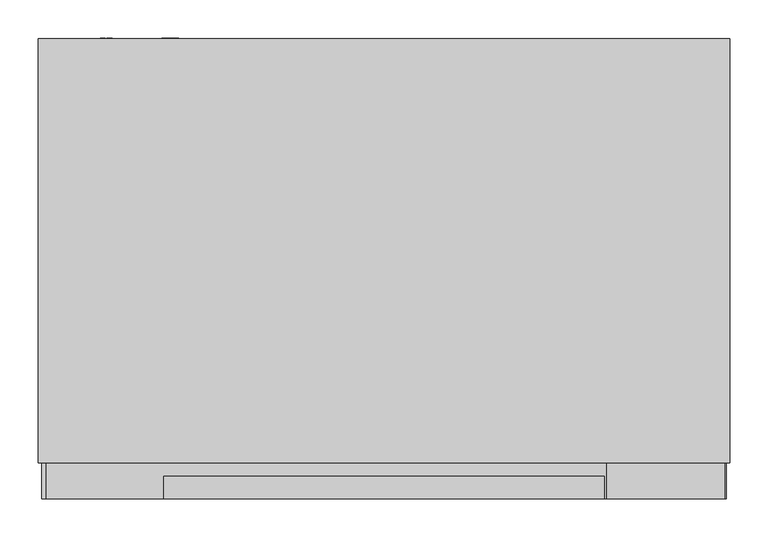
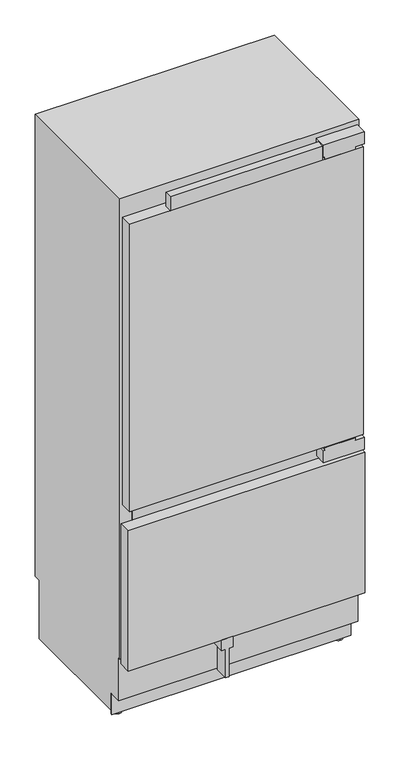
"""IFC4 building model written with IfcOpenShell, lengths in millimetres: proxy geometry, 11502930_USA_KF2902Vi : 38290201_USA_11502930_KF2902Vi."""

from ifc_helpers import new_model, si_unit, point, frame, frame_2d, origin, place, context, project, spatial, polyline, circle_curve, trimmed, segment, composite_curve, outline, extrude, source, transform, mapped, element, save
from ifc_brep_helpers import plane_surface, cylinder_surface, advanced_brep


def specialty_equipment_3cc039fb(model_context):
    return source(origin(), model_context, "Body", "SolidModel", [
        extrude(outline(polyline([(247.0, -94.0), (205.0, -94.0), (205.0, -79.5), (90.0, -79.5), (90.0, -66.5), (205.0, -66.5), (205.0, -52.0), (247.0, -52.0), (247.0, -94.0)])), frame((0.0, 0.0, 0.0), z_axis=(0.0, 1.0, 0.0), x_axis=(0.0, 0.0, 1.0)), (0.0, 0.0, 1.0), 54.0),
        extrude(outline(polyline([(-443.0, 47.0), (443.0, 47.0), (443.0, 0.0), (-443.0, 0.0), (-443.0, 47.0)])), frame((0.0, 0.0, 883.0), z_axis=(0.0, 0.0, 1.0), x_axis=(1.0, 0.0, 0.0)), (0.0, 0.0, 1.0), 1153.0),
        extrude(outline(polyline([(-449.5, 47.0), (449.5, 47.0), (449.5, 0.0), (-449.5, 0.0), (-449.5, 47.0)])), frame((0.0, 0.0, 247.0), z_axis=(0.0, 0.0, 1.0), x_axis=(1.0, 0.0, 0.0)), (0.0, 0.0, 1.0), 562.0),
        extrude(outline(polyline([(-289.0, 29.0), (289.0, 29.0), (289.0, 0.0), (-289.0, 0.0), (-289.0, 29.0)])), frame((0.0, 0.0, 2036.0), z_axis=(0.0, 0.0, 1.0), x_axis=(1.0, 0.0, 0.0)), (0.0, 0.0, 1.0), 56.0),
        extrude(outline(polyline([(180.5, 1973.4), (217.625, 1914.0), (216.4457524, 1914.0), (179.3207524, 1973.4), (180.5, 1973.4)])), frame((-69.0, 0.0, 0.0), z_axis=(1.0, 0.0, 0.0), x_axis=(0.0, 1.0, 0.0)), (0.0, 0.0, 1.0), 138.0),
        extrude(outline(polyline([(544.0, 1998.0), (544.0, 1796.0), (474.0, 1796.0), (433.0, 1907.0), (222.0, 1907.0), (177.0, 1979.0), (129.0, 1998.0), (544.0, 1998.0)])), frame((-408.0, 0.0, 0.0), z_axis=(1.0, 0.0, 0.0), x_axis=(0.0, 1.0, 0.0)), (0.0, 0.0, 1.0), 816.0),
        extrude(outline(polyline([(-408.0, 544.0), (408.0, 544.0), (408.0, 519.0), (-408.0, 519.0), (-408.0, 544.0)])), frame((0.0, 0.0, 303.0), z_axis=(0.0, 0.0, 1.0), x_axis=(1.0, 0.0, 0.0)), (0.0, 0.0, 1.0), 467.0),
        extrude(outline(polyline([(-408.0, 544.0), (408.0, 544.0), (408.0, 47.0), (-408.0, 47.0), (-408.0, 544.0)])), frame((0.0, 0.0, 770.0), z_axis=(0.0, 0.0, 1.0), x_axis=(1.0, 0.0, 0.0)), (0.0, 0.0, 1.0), 144.0),
        extrude(outline(polyline([(46.0510837, -279.101717), (37.4134902, -281.1745179), (46.0453554, -283.6868463), (46.0453554, -285.5601414), (37.4089549, -288.0799633), (46.0493903, -290.1581876), (46.0493903, -291.4649805), (36.0005458, -288.7156324), (36.0005458, -287.372208), (44.8261022, -284.6342221), (35.9987467, -282.0620509), (35.9987287, -280.5451466), (46.0510837, -277.800191), (46.0510837, -279.101717)])), frame((0.0, 604.0, 0.0), z_axis=(0.0, 1.0, 0.0), x_axis=(0.0, 0.0, 1.0)), (0.0, 0.0, 1.0), 1.0),
        extrude(outline(polyline([(46.0485238, -270.7401503), (41.1363122, -270.7401503), (46.0468162, -275.884602), (46.0468162, -277.6328316), (41.9156889, -273.3260313), (36.000035, -277.8032231), (36.000035, -276.2795519), (41.0742849, -272.4391666), (39.4525334, -270.7395503), (35.9999292, -270.7395503), (35.9999292, -269.4795491), (46.0485238, -269.4795491), (46.0485238, -270.7401503)])), frame((0.0, 604.0, 0.0), z_axis=(0.0, 1.0, 0.0), x_axis=(0.0, 0.0, 1.0)), (0.0, 0.0, 1.0), 1.0),
        extrude(outline(composite_curve([segment(trimmed(circle_curve(frame_2d((41.0, -280.0)), 7.5), [point((33.5, -280.0))], [point((48.5, -280.0))], False, "CARTESIAN"), True, "CONTINUOUS"), segment(trimmed(circle_curve(frame_2d((41.0, -280.0)), 7.5), [point((48.5, -280.0))], [point((33.5, -280.0))], False, "CARTESIAN"), True, "CONTINUOUS")], self_intersect=False)), frame((0.0, 577.0, 0.0), z_axis=(0.0, 1.0, 0.0), x_axis=(0.0, 0.0, 1.0)), (0.0, 0.0, 1.0), 27.0),
        extrude(outline(polyline([(2095.0, 447.5), (2095.0, 292.5), (2047.0, 292.5), (2047.0, 298.5), (2036.5, 298.5), (2036.5, 413.5), (2047.0, 413.5), (2047.0, 447.5), (2095.0, 447.5)])), frame((0.0, 0.0, 0.0), z_axis=(0.0, 1.0, 0.0), x_axis=(0.0, 0.0, 1.0)), (0.0, 0.0, 1.0), 47.0),
        extrude(outline(polyline([(871.0, 292.5), (823.0, 292.5), (823.0, 447.5), (871.0, 447.5), (871.0, 413.5), (881.0, 413.5), (881.0, 298.5), (871.0, 298.5), (871.0, 292.5)])), frame((0.0, 0.0, 0.0), z_axis=(0.0, 1.0, 0.0), x_axis=(0.0, 0.0, 1.0)), (0.0, 0.0, 1.0), 47.0),
        extrude(outline(polyline([(99.0373308, -363.7645771), (97.7615342, -363.7645771), (97.7615342, -357.8195541), (94.7968516, -357.8195541), (94.7968516, -363.469579), (93.5246295, -363.469579), (93.5246295, -357.8415693), (90.2570046, -357.8415693), (90.2570046, -363.9619689), (88.9546219, -363.9619689), (88.9546219, -356.5443524), (99.0373308, -356.5443524), (99.0373308, -363.7645771)])), frame((0.0, 604.0, 0.0), z_axis=(0.0, 1.0, 0.0), x_axis=(0.0, 0.0, 1.0)), (0.0, 0.0, 1.0), 1.0),
        extrude(outline(polyline([(99.0458, -367.0619704), (90.2663944, -367.0619704), (90.2663944, -372.1145879), (89.0134802, -372.1145879), (89.0134802, -365.8423809), (99.0458, -365.8423809), (99.0458, -367.0619704)])), frame((0.0, 604.0, 0.0), z_axis=(0.0, 1.0, 0.0), x_axis=(0.0, 0.0, 1.0)), (0.0, 0.0, 1.0), 1.0),
        extrude(outline(composite_curve([segment(trimmed(circle_curve(frame_2d((94.0, -364.0)), 7.5), [point((86.5, -364.0))], [point((101.5, -364.0))], False, "CARTESIAN"), True, "CONTINUOUS"), segment(trimmed(circle_curve(frame_2d((94.0, -364.0)), 7.5), [point((101.5, -364.0))], [point((86.5, -364.0))], False, "CARTESIAN"), True, "CONTINUOUS")], self_intersect=False)), frame((0.0, 577.0, 0.0), z_axis=(0.0, 1.0, 0.0), x_axis=(0.0, 0.0, 1.0)), (0.0, 0.0, 1.0), 27.0),
        extrude(outline(polyline([(-454.0, 104.0), (454.0, 104.0), (454.0, 99.0), (-454.0, 99.0), (-454.0, 104.0)])), frame((0.0, 0.0, 14.0), z_axis=(0.0, 0.0, 1.0), x_axis=(1.0, 0.0, 0.0)), (0.0, 0.0, 1.0), 83.0),
        advanced_brep(
        [(-420.0, 139.0, 0.0), (-420.0, 109.0, 0.0), (-420.0, 139.0, 7.0), (-420.0, 109.0, 7.0), (-420.0, 128.7, 7.0), (-420.0, 119.3, 7.0), (-420.0, 128.7, 28.0), (-420.0, 119.3, 28.0)],
        [
            (0, 1, circle_curve(frame((-420.0, 124.0, 0.0), z_axis=(0.0, 0.0, -1.0), x_axis=(1.0, 0.0, 0.0)), 15.0)),
            (1, 0, circle_curve(frame((-420.0, 124.0, 0.0), z_axis=(0.0, 0.0, -1.0), x_axis=(1.0, 0.0, 0.0)), 15.0)),
            (2, 3, circle_curve(frame((-420.0, 124.0, 7.0), z_axis=(0.0, 0.0, 1.0), x_axis=(1.0, 0.0, 0.0)), 15.0)),
            (3, 2, circle_curve(frame((-420.0, 124.0, 7.0), z_axis=(0.0, 0.0, 1.0), x_axis=(1.0, 0.0, 0.0)), 15.0)),
            (4, 5, circle_curve(frame((-420.0, 124.0, 7.0), z_axis=(0.0, 0.0, -1.0), x_axis=(0.0, -1.0, 0.0)), 4.7)),
            (5, 4, circle_curve(frame((-420.0, 124.0, 7.0), z_axis=(0.0, 0.0, -1.0), x_axis=(0.0, -1.0, 0.0)), 4.7)),
            (0, 2),
            (3, 1),
            (6, 7, circle_curve(frame((-420.0, 124.0, 28.0), z_axis=(0.0, 0.0, 1.0), x_axis=(0.0, -1.0, 0.0)), 4.7)),
            (7, 6, circle_curve(frame((-420.0, 124.0, 28.0), z_axis=(0.0, 0.0, 1.0), x_axis=(0.0, -1.0, 0.0)), 4.7)),
            (7, 5),
            (4, 6),
        ],
        [
            plane_surface(frame((-405.0, 124.0, 0.0), z_axis=(0.0, 0.0, -1.0), x_axis=(0.0, -1.0, 0.0))),
            plane_surface(frame((-405.0, 124.0, 7.0), z_axis=(0.0, 0.0, 1.0), x_axis=(0.0, 1.0, 0.0))),
            cylinder_surface(frame((-420.0, 124.0, 7.0), z_axis=(0.0, 0.0, -1.0), x_axis=(1.0, 0.0, 0.0)), 15.0),
            plane_surface(frame((-420.0, 119.3, 28.0), z_axis=(0.0, 0.0, 1.0), x_axis=(1.0, 0.0, 0.0))),
            cylinder_surface(frame((-420.0, 124.0, 28.0), z_axis=(0.0, 0.0, -1.0), x_axis=(0.0, -1.0, 0.0)), 4.7),
        ],
        [
            (0, [[1, 2]]),
            (1, [[3, 4], [5, 6]]),
            (2, [[-1, 7, -4, 8]]),
            (2, [[-2, -8, -3, -7]]),
            (3, [[9, 10]]),
            (4, [[-10, 11, -5, 12]]),
            (4, [[-9, -12, -6, -11]]),
        ],
    ),
        advanced_brep(
        [(420.0, 139.0, 0.0), (420.0, 109.0, 0.0), (420.0, 139.0, 7.0), (420.0, 109.0, 7.0), (420.0, 128.7, 7.0), (420.0, 119.3, 7.0), (420.0, 128.7, 28.0), (420.0, 119.3, 28.0)],
        [
            (0, 1, circle_curve(frame((420.0, 124.0, 0.0), z_axis=(0.0, 0.0, -1.0), x_axis=(1.0, 0.0, 0.0)), 15.0)),
            (1, 0, circle_curve(frame((420.0, 124.0, 0.0), z_axis=(0.0, 0.0, -1.0), x_axis=(1.0, 0.0, 0.0)), 15.0)),
            (2, 3, circle_curve(frame((420.0, 124.0, 7.0), z_axis=(0.0, 0.0, 1.0), x_axis=(1.0, 0.0, 0.0)), 15.0)),
            (3, 2, circle_curve(frame((420.0, 124.0, 7.0), z_axis=(0.0, 0.0, 1.0), x_axis=(1.0, 0.0, 0.0)), 15.0)),
            (4, 5, circle_curve(frame((420.0, 124.0, 7.0), z_axis=(0.0, 0.0, -1.0), x_axis=(0.0, -1.0, 0.0)), 4.7)),
            (5, 4, circle_curve(frame((420.0, 124.0, 7.0), z_axis=(0.0, 0.0, -1.0), x_axis=(0.0, -1.0, 0.0)), 4.7)),
            (0, 2),
            (3, 1),
            (6, 7, circle_curve(frame((420.0, 124.0, 28.0), z_axis=(0.0, 0.0, 1.0), x_axis=(0.0, -1.0, 0.0)), 4.7)),
            (7, 6, circle_curve(frame((420.0, 124.0, 28.0), z_axis=(0.0, 0.0, 1.0), x_axis=(0.0, -1.0, 0.0)), 4.7)),
            (7, 5),
            (4, 6),
        ],
        [
            plane_surface(frame((-405.0, 124.0, 0.0), z_axis=(0.0, 0.0, -1.0), x_axis=(0.0, -1.0, 0.0))),
            plane_surface(frame((-405.0, 124.0, 7.0), z_axis=(0.0, 0.0, 1.0), x_axis=(0.0, 1.0, 0.0))),
            cylinder_surface(frame((420.0, 124.0, 7.0), z_axis=(0.0, 0.0, -1.0), x_axis=(1.0, 0.0, 0.0)), 15.0),
            plane_surface(frame((-420.0, 119.3, 28.0), z_axis=(0.0, 0.0, 1.0), x_axis=(1.0, 0.0, 0.0))),
            cylinder_surface(frame((420.0, 124.0, 28.0), z_axis=(0.0, 0.0, -1.0), x_axis=(0.0, -1.0, 0.0)), 4.7),
        ],
        [
            (0, [[1, 2]]),
            (1, [[3, 4], [5, 6]]),
            (2, [[-1, 7, -4, 8]]),
            (2, [[-2, -8, -3, -7]]),
            (3, [[9, 10]]),
            (4, [[-10, 11, -5, 12]]),
            (4, [[-9, -12, -6, -11]]),
        ],
    ),
        advanced_brep(
        [(454.0, 47.0, 2114.0), (454.0, 47.0, 267.0), (454.0, 54.0, 267.0), (454.0, 54.0, 97.0), (454.0, 104.0, 97.0), (454.0, 104.0, 28.0), (454.0, 577.0, 28.0), (454.0, 577.0, 263.0), (454.0, 604.0, 263.0), (454.0, 604.0, 2114.0), (-454.0, 47.0, 2114.0), (-454.0, 604.0, 2114.0), (-454.0, 604.0, 263.0), (-454.0, 577.0, 263.0), (-454.0, 577.0, 28.0), (-454.0, 104.0, 28.0), (-454.0, 104.0, 97.0), (-454.0, 54.0, 97.0), (-454.0, 54.0, 267.0), (-454.0, 47.0, 267.0), (394.0, 577.0, 28.0), (394.0, 577.0, 14.0), (-394.0, 577.0, 14.0), (-394.0, 577.0, 28.0), (394.0, 104.0, 14.0), (-394.0, 104.0, 14.0), (-394.0, 104.0, 28.0), (394.0, 104.0, 28.0), (408.0, 47.0, 1998.0), (408.0, 47.0, 303.0), (-408.0, 47.0, 303.0), (-408.0, 47.0, 1998.0), (408.0, 544.0, 1998.0), (-408.0, 544.0, 1998.0), (-408.0, 544.0, 303.0), (408.0, 544.0, 303.0), (-412.5, 202.8193473, 28.0), (-431.5, 202.8193473, 28.0), (-431.5, 153.1806527, 28.0), (-412.5, 153.1806527, 28.0), (-432.0, 525.8193473, 28.0), (-432.0, 476.1806527, 28.0), (-416.0, 476.1806527, 28.0), (-416.0, 525.8193473, 28.0), (431.5, 153.1806527, 28.0), (431.5, 202.8193473, 28.0), (412.5, 202.8193473, 28.0), (412.5, 153.1806527, 28.0), (416.0, 525.8193473, 28.0), (416.0, 476.1806527, 28.0), (432.0, 476.1806527, 28.0), (432.0, 525.8193473, 28.0), (-412.5, 203.0, 25.0), (-412.5, 153.0, 25.0), (-431.5, 153.0, 25.0), (-431.5, 203.0, 25.0), (-412.5, 178.0, 25.0), (-431.5, 178.0, 25.0), (431.5, 178.0, 25.0), (431.5, 153.0, 25.0), (431.5, 203.0, 25.0), (412.5, 203.0, 25.0), (412.5, 153.0, 25.0), (412.5, 178.0, 25.0), (-432.0, 526.0, 25.0), (-432.0, 476.0, 25.0), (-432.0, 501.0, 25.0), (-416.0, 526.0, 25.0), (-416.0, 476.0, 25.0), (-416.0, 501.0, 25.0), (416.0, 526.0, 25.0), (416.0, 476.0, 25.0), (416.0, 501.0, 25.0), (432.0, 526.0, 25.0), (432.0, 476.0, 25.0), (432.0, 501.0, 25.0)],
        [
            (0, 1),
            (1, 2),
            (2, 3),
            (3, 4),
            (4, 5),
            (5, 6),
            (6, 7),
            (7, 8),
            (8, 9),
            (9, 0),
            (10, 11),
            (11, 12),
            (12, 13),
            (13, 14),
            (14, 15),
            (15, 16),
            (16, 17),
            (17, 18),
            (18, 19),
            (19, 10),
            (9, 11),
            (10, 0),
            (8, 12),
            (7, 13),
            (6, 20),
            (20, 21),
            (21, 22),
            (22, 23),
            (23, 14),
            (21, 24),
            (24, 25),
            (25, 22),
            (4, 16),
            (15, 26),
            (26, 25),
            (24, 27),
            (27, 5),
            (3, 17),
            (2, 18),
            (1, 19),
            (28, 29),
            (29, 30),
            (30, 31),
            (31, 28),
            (32, 33),
            (33, 34),
            (34, 35),
            (35, 32),
            (35, 29),
            (28, 32),
            (34, 30),
            (33, 31),
            (23, 26),
            (36, 37),
            (37, 38),
            (38, 39),
            (39, 36),
            (40, 41),
            (41, 42),
            (42, 43),
            (43, 40),
            (27, 20),
            (44, 45),
            (45, 46),
            (46, 47),
            (47, 44),
            (48, 49),
            (49, 50),
            (50, 51),
            (51, 48),
            (52, 53, circle_curve(frame((-412.5, 178.0, 25.0), z_axis=(-1.0, 0.0, 0.0), x_axis=(0.0, -1.0, 0.0)), 25.0)),
            (53, 54),
            (54, 55, circle_curve(frame((-431.5, 178.0, 25.0), z_axis=(1.0, 0.0, 0.0), x_axis=(0.0, -1.0, 0.0)), 25.0)),
            (55, 52),
            (53, 39, circle_curve(frame((-412.5, 178.0, 25.0), z_axis=(-1.0, 0.0, 0.0), x_axis=(0.0, -1.0, 0.0)), 25.0)),
            (38, 54, circle_curve(frame((-431.5, 178.0, 25.0), z_axis=(1.0, 0.0, 0.0), x_axis=(0.0, -1.0, 0.0)), 25.0)),
            (55, 37, circle_curve(frame((-431.5, 178.0, 25.0), z_axis=(1.0, 0.0, 0.0), x_axis=(0.0, -1.0, 0.0)), 25.0)),
            (36, 52, circle_curve(frame((-412.5, 178.0, 25.0), z_axis=(-1.0, 0.0, 0.0), x_axis=(0.0, -1.0, 0.0)), 25.0)),
            (52, 56),
            (56, 53),
            (54, 57),
            (57, 55),
            (58, 59),
            (59, 60, circle_curve(frame((431.5, 178.0, 25.0), z_axis=(1.0, 0.0, 0.0), x_axis=(0.0, -1.0, 0.0)), 25.0)),
            (60, 58),
            (60, 45, circle_curve(frame((431.5, 178.0, 25.0), z_axis=(1.0, 0.0, 0.0), x_axis=(0.0, -1.0, 0.0)), 25.0)),
            (44, 59, circle_curve(frame((431.5, 178.0, 25.0), z_axis=(1.0, 0.0, 0.0), x_axis=(0.0, -1.0, 0.0)), 25.0)),
            (61, 62, circle_curve(frame((412.5, 178.0, 25.0), z_axis=(-1.0, 0.0, 0.0), x_axis=(0.0, -1.0, 0.0)), 25.0)),
            (62, 63),
            (63, 61),
            (62, 47, circle_curve(frame((412.5, 178.0, 25.0), z_axis=(-1.0, 0.0, 0.0), x_axis=(0.0, -1.0, 0.0)), 25.0)),
            (46, 61, circle_curve(frame((412.5, 178.0, 25.0), z_axis=(-1.0, 0.0, 0.0), x_axis=(0.0, -1.0, 0.0)), 25.0)),
            (64, 65, circle_curve(frame((-432.0, 501.0, 25.0), z_axis=(-1.0, 0.0, 0.0), x_axis=(0.0, -1.0, 0.0)), 25.0)),
            (65, 66),
            (66, 64),
            (65, 41, circle_curve(frame((-432.0, 501.0, 25.0), z_axis=(-1.0, 0.0, 0.0), x_axis=(0.0, -1.0, 0.0)), 25.0)),
            (40, 64, circle_curve(frame((-432.0, 501.0, 25.0), z_axis=(-1.0, 0.0, 0.0), x_axis=(0.0, -1.0, 0.0)), 25.0)),
            (64, 67),
            (67, 68, circle_curve(frame((-416.0, 501.0, 25.0), z_axis=(-1.0, 0.0, 0.0), x_axis=(0.0, -1.0, 0.0)), 25.0)),
            (68, 65),
            (43, 67, circle_curve(frame((-416.0, 501.0, 25.0), z_axis=(-1.0, 0.0, 0.0), x_axis=(0.0, -1.0, 0.0)), 25.0)),
            (68, 42, circle_curve(frame((-416.0, 501.0, 25.0), z_axis=(-1.0, 0.0, 0.0), x_axis=(0.0, -1.0, 0.0)), 25.0)),
            (67, 69),
            (69, 68),
            (70, 71, circle_curve(frame((416.0, 501.0, 25.0), z_axis=(-1.0, 0.0, 0.0), x_axis=(0.0, -1.0, 0.0)), 25.0)),
            (71, 72),
            (72, 70),
            (71, 49, circle_curve(frame((416.0, 501.0, 25.0), z_axis=(-1.0, 0.0, 0.0), x_axis=(0.0, -1.0, 0.0)), 25.0)),
            (48, 70, circle_curve(frame((416.0, 501.0, 25.0), z_axis=(-1.0, 0.0, 0.0), x_axis=(0.0, -1.0, 0.0)), 25.0)),
            (70, 73),
            (73, 74, circle_curve(frame((432.0, 501.0, 25.0), z_axis=(-1.0, 0.0, 0.0), x_axis=(0.0, -1.0, 0.0)), 25.0)),
            (74, 71),
            (51, 73, circle_curve(frame((432.0, 501.0, 25.0), z_axis=(-1.0, 0.0, 0.0), x_axis=(0.0, -1.0, 0.0)), 25.0)),
            (74, 50, circle_curve(frame((432.0, 501.0, 25.0), z_axis=(-1.0, 0.0, 0.0), x_axis=(0.0, -1.0, 0.0)), 25.0)),
            (73, 75),
            (75, 74),
            (59, 62),
            (61, 60),
        ],
        [
            plane_surface(frame((454.0, 604.0, 2114.0), z_axis=(1.0, 0.0, 0.0), x_axis=(0.0, -1.0, 0.0))),
            plane_surface(frame((-454.0, 604.0, 2114.0), z_axis=(-1.0, 0.0, 0.0), x_axis=(0.0, 1.0, 0.0))),
            plane_surface(frame((-454.0, 47.0, 2114.0), z_axis=(0.0, 0.0, 1.0), x_axis=(1.0, 0.0, 0.0))),
            plane_surface(frame((-454.0, 604.0, 2114.0), z_axis=(0.0, 1.0, 0.0), x_axis=(1.0, 0.0, 0.0))),
            plane_surface(frame((-454.0, 604.0, 263.0), z_axis=(0.0, 0.0, -1.0), x_axis=(1.0, 0.0, 0.0))),
            plane_surface(frame((-454.0, 577.0, 263.0), z_axis=(0.0, 1.0, 0.0), x_axis=(1.0, 0.0, 0.0))),
            plane_surface(frame((-454.0, 577.0, 14.0), z_axis=(0.0, 0.0, -1.0), x_axis=(1.0, 0.0, 0.0))),
            plane_surface(frame((-454.0, 104.0, 14.0), z_axis=(0.0, -1.0, 0.0), x_axis=(1.0, 0.0, 0.0))),
            plane_surface(frame((-454.0, 104.0, 97.0), z_axis=(0.0, 0.0, -1.0), x_axis=(1.0, 0.0, 0.0))),
            plane_surface(frame((-454.0, 54.0, 97.0), z_axis=(0.0, -1.0, 0.0), x_axis=(1.0, 0.0, 0.0))),
            plane_surface(frame((-454.0, 54.0, 267.0), z_axis=(0.0, 0.0, -1.0), x_axis=(1.0, 0.0, 0.0))),
            plane_surface(frame((-454.0, 47.0, 267.0), z_axis=(0.0, -1.0, 0.0), x_axis=(1.0, 0.0, 0.0))),
            plane_surface(frame((408.0, 544.0, 1998.0), z_axis=(0.0, -1.0, 0.0), x_axis=(0.0, 0.0, -1.0))),
            plane_surface(frame((408.0, 544.0, 1998.0), z_axis=(-1.0, 0.0, 0.0), x_axis=(0.0, -1.0, 0.0))),
            plane_surface(frame((408.0, 544.0, 303.0), z_axis=(0.0, 0.0, 1.0), x_axis=(0.0, -1.0, 0.0))),
            plane_surface(frame((-408.0, 544.0, 303.0), z_axis=(1.0, 0.0, 0.0), x_axis=(0.0, -1.0, 0.0))),
            plane_surface(frame((-408.0, 544.0, 1998.0), z_axis=(0.0, 0.0, -1.0), x_axis=(0.0, -1.0, 0.0))),
            plane_surface(frame((-454.0, 604.0, 28.0), z_axis=(0.0, 0.0, -1.0), x_axis=(-1.0, 0.0, 0.0))),
            plane_surface(frame((-394.0, 104.0, 28.0), z_axis=(-1.0, 0.0, 0.0), x_axis=(0.0, 0.0, -1.0))),
            plane_surface(frame((394.0, 604.0, 28.0), z_axis=(1.0, 0.0, 0.0), x_axis=(0.0, 0.0, -1.0))),
            cylinder_surface(frame((-546.6988927, 178.0, 25.0), z_axis=(1.0, 0.0, 0.0), x_axis=(0.0, -1.0, 0.0)), 25.0),
            plane_surface(frame((-412.5, 178.0, 25.0), z_axis=(1.0, 0.0, 0.0), x_axis=(0.0, -1.0, 0.0))),
            plane_surface(frame((-431.5, 178.0, 25.0), z_axis=(-1.0, 0.0, 0.0), x_axis=(0.0, -1.0, 0.0))),
            plane_surface(frame((431.5, 178.0, 25.0), z_axis=(1.0, 0.0, 0.0), x_axis=(0.0, -1.0, 0.0))),
            plane_surface(frame((412.5, 178.0, 25.0), z_axis=(-1.0, 0.0, 0.0), x_axis=(0.0, -1.0, 0.0))),
            plane_surface(frame((-432.0, 501.0, 25.0), z_axis=(-1.0, 0.0, 0.0), x_axis=(0.0, -1.0, 0.0))),
            cylinder_surface(frame((-546.6988927, 501.0, 25.0), z_axis=(1.0, 0.0, 0.0), x_axis=(0.0, -1.0, 0.0)), 25.0),
            plane_surface(frame((-416.0, 501.0, 25.0), z_axis=(1.0, 0.0, 0.0), x_axis=(0.0, -1.0, 0.0))),
            plane_surface(frame((416.0, 501.0, 25.0), z_axis=(-1.0, 0.0, 0.0), x_axis=(0.0, -1.0, 0.0))),
            plane_surface(frame((432.0, 501.0, 25.0), z_axis=(1.0, 0.0, 0.0), x_axis=(0.0, -1.0, 0.0))),
        ],
        [
            (0, [[1, 2, 3, 4, 5, 6, 7, 8, 9, 10]]),
            (1, [[11, 12, 13, 14, 15, 16, 17, 18, 19, 20]]),
            (2, [[-10, 21, -11, 22]]),
            (3, [[-9, 23, -12, -21]]),
            (4, [[-8, 24, -13, -23]]),
            (5, [[-24, -7, 25, 26, 27, 28, 29, -14]]),
            (6, [[-27, 30, 31, 32]]),
            (7, [[33, -16, 34, 35, -31, 36, 37, -5]]),
            (8, [[-4, 38, -17, -33]]),
            (9, [[-3, 39, -18, -38]]),
            (10, [[-2, 40, -19, -39]]),
            (11, [[-1, -22, -20, -40], [41, 42, 43, 44]]),
            (12, [[45, 46, 47, 48]]),
            (13, [[-48, 49, -41, 50]]),
            (14, [[-47, 51, -42, -49]]),
            (15, [[-46, 52, -43, -51]]),
            (16, [[-45, -50, -44, -52]]),
            (17, [[53, -34, -15, -29], [54, 55, 56, 57], [58, 59, 60, 61]]),
            (17, [[62, -25, -6, -37], [63, 64, 65, 66], [67, 68, 69, 70]]),
            (18, [[-53, -28, -32, -35]]),
            (19, [[-62, -36, -30, -26]]),
            (20, [[71, 72, 73, 74]]),
            (20, [[-72, 75, -56, 76]]),
            (20, [[-74, 77, -54, 78]]),
            (21, [[-71, 79, 80]]),
            (21, [[-80, -79, -78, -57, -75]]),
            (22, [[-73, 81, 82]]),
            (22, [[-81, -76, -55, -77, -82]]),
            (23, [[83, 84, 85]]),
            (23, [[-83, -85, 86, -63, 87]]),
            (24, [[88, 89, 90]]),
            (24, [[-89, 91, -65, 92, -90]]),
            (25, [[93, 94, 95]]),
            (25, [[-94, 96, -58, 97, -95]]),
            (26, [[-93, 98, 99, 100]]),
            (26, [[-98, -97, -61, 101]]),
            (26, [[-100, 102, -59, -96]]),
            (27, [[-99, 103, 104]]),
            (27, [[-104, -103, -101, -60, -102]]),
            (28, [[105, 106, 107]]),
            (28, [[-106, 108, -67, 109, -107]]),
            (26, [[-105, 110, 111, 112]]),
            (26, [[-110, -109, -70, 113]]),
            (26, [[-112, 114, -68, -108]]),
            (29, [[-111, 115, 116]]),
            (29, [[-116, -115, -113, -69, -114]]),
            (20, [[-84, 117, -88, 118]]),
            (20, [[-117, -87, -66, -91]]),
            (20, [[-118, -92, -64, -86]]),
        ],
    ),
    ])


if __name__ == "__main__":
    model = new_model("IFC4")
    model_context = context("Model", 3, world=origin())
    ifc_project = project(units=[si_unit("LENGTHUNIT", "METRE", prefix="MILLI")], contexts=[model_context])
    site = spatial("IfcSite", under=ifc_project)
    building = spatial("IfcBuilding", under=site)
    placement = place(None, origin())
    specialty_equipment_shape = specialty_equipment_3cc039fb(model_context)
    element("IfcBuildingElementProxy", 1, Name="11502930_USA_KF2902Vi : 38290201_USA_11502930_KF2902Vi", ObjectType="11502930_USA_KF2902Vi : 38290201_USA_11502930_KF2902Vi", at=placement, inside=building, context=model_context, shape_type="MappedRepresentation", body=[
        mapped(specialty_equipment_shape, transform((0.0, 0.0, 0.0), x_axis=(1.0, 0.0, 0.0), y_axis=(0.0, 1.0, 0.0), z_axis=(0.0, 0.0, 1.0))),
    ])
    save(model, "model.ifc")
